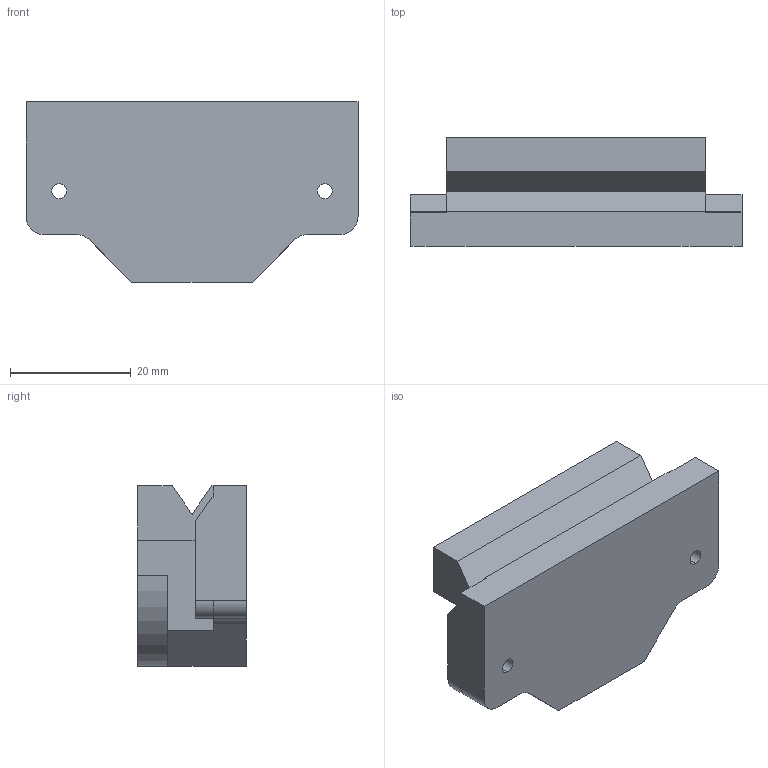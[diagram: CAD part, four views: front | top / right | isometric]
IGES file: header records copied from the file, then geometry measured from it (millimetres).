
Start section: 3D InterOp IGES (v. 2019 1.0.2), Spatial Corp. Copyright (c) 1999-2017.
Global section: file name: SS CS 25.igs; native system: Spatial Corp.; preprocessor: 3D InterOp GENERIC/IGES 3.0; author: Noname; organization: Noname; date: 20220628.115129; units: millimetre
Bounding box: 55 x 18 x 29.9 mm (x, y, z)
Surface area: 5761.3 mm2 (no closed solid volume)
Topology: 0 solids, 0 shells, 43 faces, 246 edges, 246 vertices
Faces by surface type: extrusion 31, revolution 12
